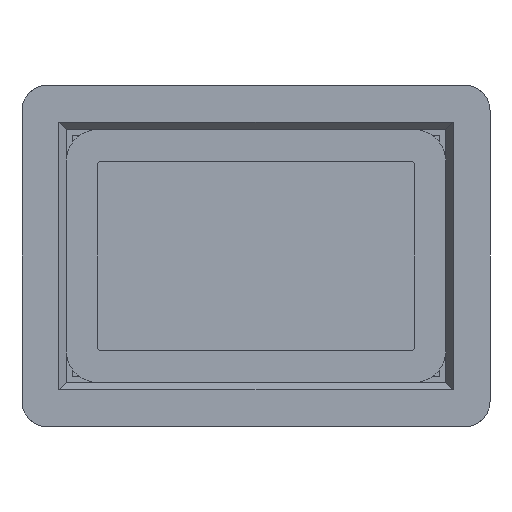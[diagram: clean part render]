
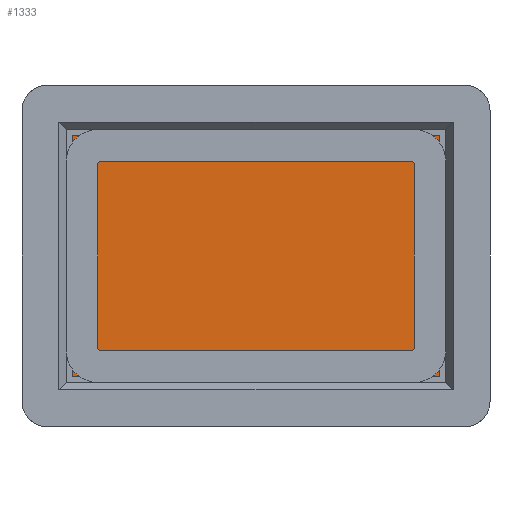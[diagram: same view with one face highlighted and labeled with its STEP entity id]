
A CAD part, front view. The second image highlights one B-rep face of the part: STEP entity #1333.
In plain terms, the highlighted planar face has unit normal (0, -1, 0).
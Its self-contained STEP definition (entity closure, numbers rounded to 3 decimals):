
#1333 = ADVANCED_FACE( '', ( #3005 ), #3006, .T. );
#3005 = FACE_OUTER_BOUND( '', #10426, .T. );
#3006 = PLANE( '', #10427 );
#10426 = EDGE_LOOP( '', ( #19121, #19122, #19123, #19124 ) );
#10427 = AXIS2_PLACEMENT_3D( '', #19125, #19126, #19127 );
#19121 = ORIENTED_EDGE( '', *, *, #23571, .T. );
#19122 = ORIENTED_EDGE( '', *, *, #23572, .T. );
#19123 = ORIENTED_EDGE( '', *, *, #23573, .T. );
#19124 = ORIENTED_EDGE( '', *, *, #23520, .T. );
#19125 = CARTESIAN_POINT( '', ( 0., 115., 0. ) );
#19126 = DIRECTION( '', ( 0., -1., 0. ) );
#19127 = DIRECTION( '', ( 0., 0., -1. ) );
#23520 = EDGE_CURVE( '', #26639, #26637, #26640, .T. );
#23571 = EDGE_CURVE( '', #26637, #26710, #26711, .T. );
#23572 = EDGE_CURVE( '', #26710, #26712, #26713, .T. );
#23573 = EDGE_CURVE( '', #26712, #26639, #26714, .T. );
#26637 = VERTEX_POINT( '', #33065 );
#26639 = VERTEX_POINT( '', #33068 );
#26640 = LINE( '', #33069, #33070 );
#26710 = VERTEX_POINT( '', #33212 );
#26711 = LINE( '', #33213, #33214 );
#26712 = VERTEX_POINT( '', #33215 );
#26713 = LINE( '', #33216, #33217 );
#26714 = LINE( '', #33218, #33219 );
#33065 = CARTESIAN_POINT( '', ( -14.5, 115., -9.5 ) );
#33068 = CARTESIAN_POINT( '', ( -14.5, 115., 9.5 ) );
#33069 = CARTESIAN_POINT( '', ( -14.5, 115., 9.5 ) );
#33070 = VECTOR( '', #37156, 1000. );
#33212 = CARTESIAN_POINT( '', ( 14.5, 115., -9.5 ) );
#33213 = CARTESIAN_POINT( '', ( -14.5, 115., -9.5 ) );
#33214 = VECTOR( '', #37219, 1000. );
#33215 = CARTESIAN_POINT( '', ( 14.5, 115., 9.5 ) );
#33216 = CARTESIAN_POINT( '', ( 14.5, 115., -9.5 ) );
#33217 = VECTOR( '', #37220, 1000. );
#33218 = CARTESIAN_POINT( '', ( 14.5, 115., 9.5 ) );
#33219 = VECTOR( '', #37221, 1000. );
#37156 = DIRECTION( '', ( 0., 0., -1. ) );
#37219 = DIRECTION( '', ( 1., 0., 0. ) );
#37220 = DIRECTION( '', ( 0., 0., 1. ) );
#37221 = DIRECTION( '', ( -1., 0., 0. ) );
